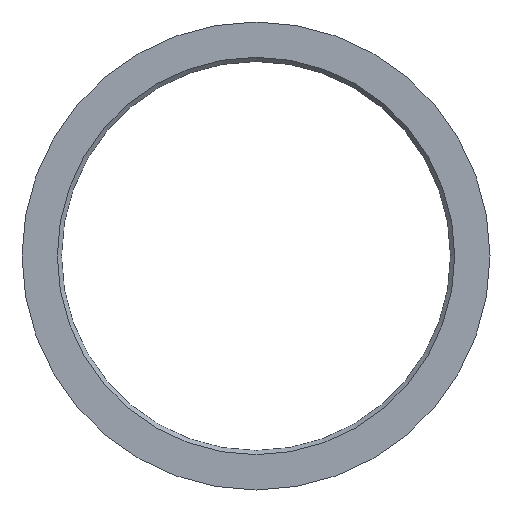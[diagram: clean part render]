
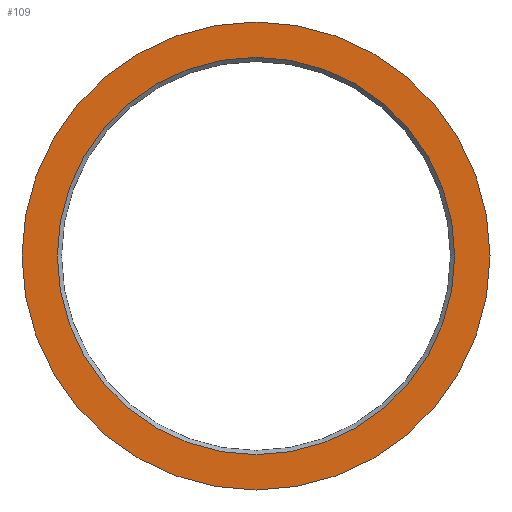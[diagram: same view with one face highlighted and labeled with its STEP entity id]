
A CAD part, front view. The second image highlights one B-rep face of the part: STEP entity #109.
In plain terms, the highlighted planar face has unit normal (0, -1, 0).
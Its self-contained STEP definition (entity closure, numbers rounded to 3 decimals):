
#16=FACE_BOUND('',#34,.T.);
#18=PLANE('',#144);
#25=FACE_OUTER_BOUND('',#33,.T.);
#33=EDGE_LOOP('',(#90));
#34=EDGE_LOOP('',(#91));
#51=CIRCLE('',#143,47.55);
#52=CIRCLE('',#145,56.);
#59=VERTEX_POINT('',#202);
#60=VERTEX_POINT('',#206);
#70=EDGE_CURVE('',#59,#59,#51,.T.);
#71=EDGE_CURVE('',#60,#60,#52,.T.);
#90=ORIENTED_EDGE('',*,*,#71,.F.);
#91=ORIENTED_EDGE('',*,*,#70,.F.);
#109=ADVANCED_FACE('',(#25,#16),#18,.F.);
#143=AXIS2_PLACEMENT_3D('',#204,#171,#172);
#144=AXIS2_PLACEMENT_3D('',#205,#173,#174);
#145=AXIS2_PLACEMENT_3D('',#207,#175,#176);
#171=DIRECTION('center_axis',(0.,-1.,0.));
#172=DIRECTION('ref_axis',(1.,0.,0.));
#173=DIRECTION('center_axis',(0.,1.,0.));
#174=DIRECTION('ref_axis',(0.,0.,1.));
#175=DIRECTION('center_axis',(0.,1.,0.));
#176=DIRECTION('ref_axis',(-1.,0.,0.));
#202=CARTESIAN_POINT('',(-47.55,0.,0.));
#204=CARTESIAN_POINT('Origin',(0.,0.,0.));
#205=CARTESIAN_POINT('Origin',(0.,0.,0.));
#206=CARTESIAN_POINT('',(-56.,0.,0.));
#207=CARTESIAN_POINT('Origin',(0.,0.,0.));
